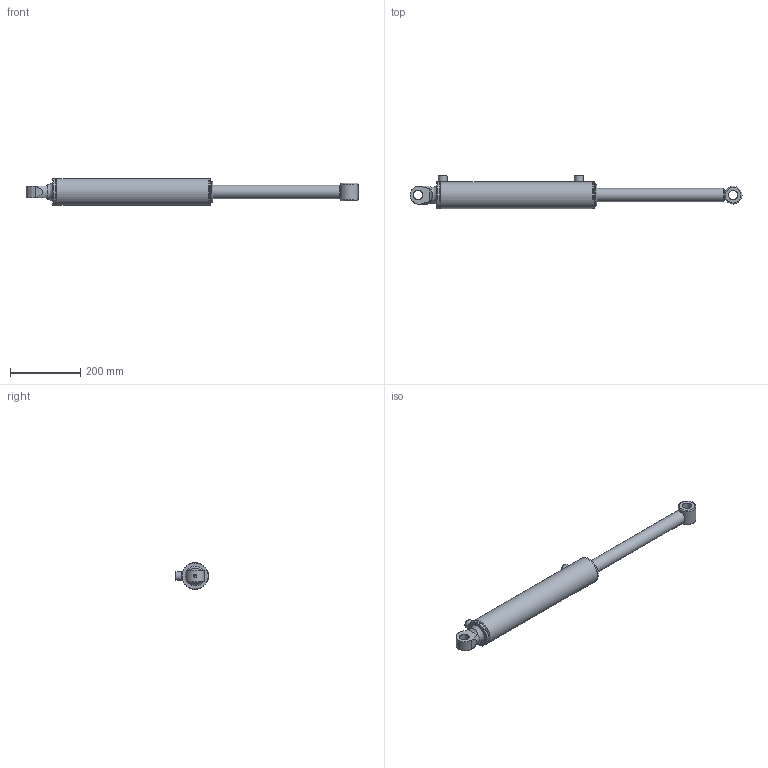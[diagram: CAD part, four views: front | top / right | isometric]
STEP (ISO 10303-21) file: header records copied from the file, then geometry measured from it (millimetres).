
FILE_DESCRIPTION(/* description */ ('Alibre Inc.'),/* implementation_level */ '2;1');
FILE_NAME(/* name */ 'export0',/* time_stamp */ '2016-08-16T09:56:26+12:00',/* author */ (''),/* organization */ (''),/* preprocessor_version */ 'ST-DEVELOPER v14',/* originating_system */ 'Alibre',/* authorisation */ '');
FILE_SCHEMA (('AUTOMOTIVE_DESIGN'));
Length unit declared in the file: centimetre
Bounding box: 946.13 x 94.2 x 76.2 mm (x, y, z)
Volume: 1483818.8 mm3; surface area: 347367.5 mm2
Topology: 12 solids, 12 shells, 150 faces, 308 edges, 192 vertices
Faces by surface type: cylinder 55, plane 51, cone 28, torus 13, sphere 2, bspline 1
Full cylindrical faces by diameter (mm): 2.5 x2, 7 x3, 8.3 x2, 8.8 x1, 15.25 x2, 23 x1, 23.622 x1, 25 x2, 25.4 x2, 25.45 x1, 38.1 x1, 38.18 x2, 38.35 x1, 44.45 x1, 47.62 x2, 47.63 x1, 48 x2, 50.8 x1, 56.5 x1, 57.66 x1, 58.9 x2, 59.87 x2, 60.2 x1, 62.13 x2, 63.39 x2, 63.4 x1, 63.5 x2, 66.7 x1, 76.2 x3
Entity records: 4139 total; most frequent: CARTESIAN_POINT 1185, DIRECTION 569, ORIENTED_EDGE 394, AXIS2_PLACEMENT_3D 300, FACE_BOUND 271, EDGE_LOOP 269, EDGE_CURVE 197, VERTEX_POINT 174
